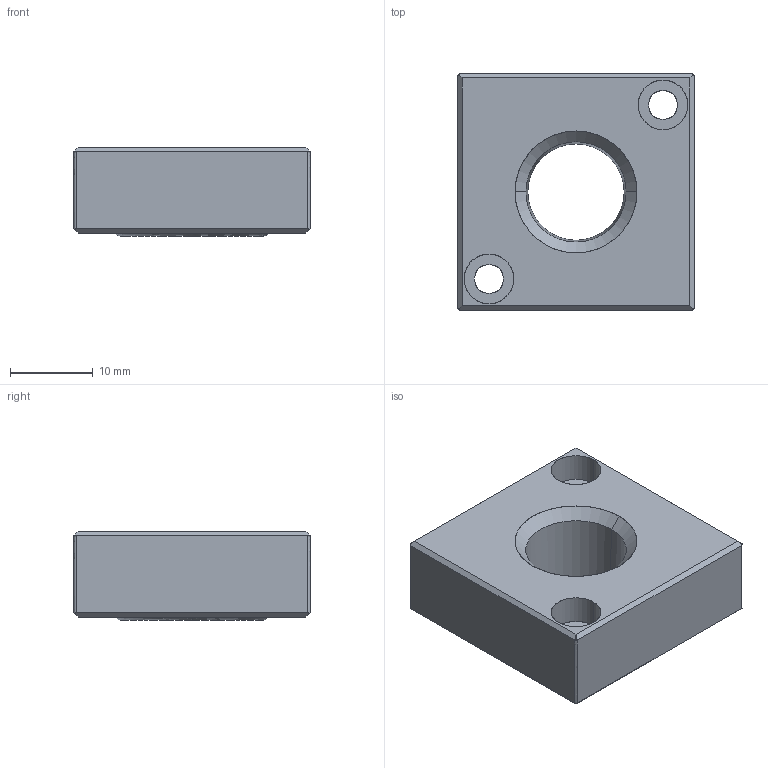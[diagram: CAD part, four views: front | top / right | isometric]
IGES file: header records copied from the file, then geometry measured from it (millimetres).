
Start section: SolidWorks IGES file using analytic representation for surfaces
Global section: file name: C:\Documents and Settings\Administrator\桌面\ZGNUFR03CB-1.IGS,1; native system: 5HSolidWorks 2012; preprocessor: SolidWorks 2012; author: Administrator; date: 140703.113335; units: millimetre
Bounding box: 28.5 x 28.5 x 10.7 mm (x, y, z)
Surface area: 3614.4 mm2 (no closed solid volume)
Topology: 0 solids, 0 shells, 45 faces, 836 edges, 944 vertices
Faces by surface type: bspline 23, revolution 22
